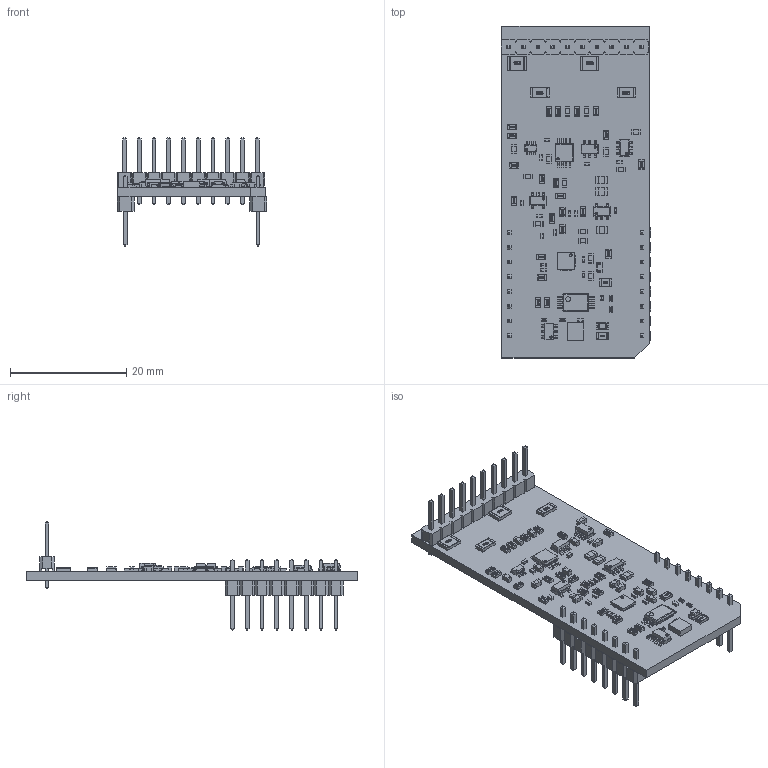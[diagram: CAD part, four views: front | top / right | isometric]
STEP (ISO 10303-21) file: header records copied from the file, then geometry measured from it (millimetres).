
FILE_DESCRIPTION(('Open CASCADE Model'),'2;1');
FILE_NAME('Open CASCADE Shape Model','2026-02-25T09:52:41',('Author'),( 'Open CASCADE'),'Open CASCADE STEP processor 6.8','Open CASCADE 6.8' ,'Unknown');
FILE_SCHEMA(('AUTOMOTIVE_DESIGN { 1 0 10303 214 1 1 1 1 }'));
Length unit declared in the file: millimetre
Products named in the file (113): PCB; Board; U10; User_Library-SOT23-6-2; R32; User_Library-R_0603; C34; User_Library-SMD_CAPACITOR0402; U7; User_Library-TSSOP-8_3_1x3_1; User_Library-TSSOP-8_3.1x3.1_pin_TSSOP_tssop_1; User_Library-TSSOP-8_3.1x3.1_body_TSSOP_TSSOP_3.1x3.1_1; U6; User_Library-SOT23-5-2; R2; User_Library-R_0402; R31; User_Library-R_1210; R30; U9; ACS37612LLUATR-015B5; Leadframe; mold; U8; U5; U4; QFN40P300X300X60-20; U3; User_Library-sot363; R29; R28; R27; R26; R25; R24; R23; R22; R21; R20; R19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
Assembly tree (191 placements, depth 7):
  PCB
    Board
    U10
      User_Library-SOT23-6-2
    R32
      User_Library-R_0603
    C34
      User_Library-SMD_CAPACITOR0402
    U7
      User_Library-TSSOP-8_3_1x3_1
        User_Library-TSSOP-8_3.1x3.1_pin_TSSOP_tssop_1  x8
        User_Library-TSSOP-8_3.1x3.1_body_TSSOP_TSSOP_3.1x3.1_1
    U6
      User_Library-SOT23-5-2
    R2
      User_Library-R_0402
    R31
      User_Library-R_1210
    R30
      User_Library-R_1210
    U9
      ACS37612LLUATR-015B5
        Leadframe
        mold
    U8
      User_Library-SOT23-5-2
    U5
      User_Library-SOT23-6-2
    U4
      QFN40P300X300X60-20
    U3
      User_Library-sot363
    R29
      User_Library-R_0603
    R28
      User_Library-R_0603
    R27
      User_Library-R_0603
    R26
      User_Library-R_0603
    R25
      User_Library-R_0603
    R24
      User_Library-R_0603
    R23
      User_Library-R_0603
    R22
      User_Library-R_0603
    R21
      User_Library-R_0603
    R20
      User_Library-R_0603
    R19
      User_Library-R_0402
    R18
      User_Library-R_0402
    R17
      User_Library-R_0603
    R16
      User_Library-R_0603
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Bounding box: 25.81 x 57.15 x 18.65 mm (x, y, z)
Volume: 3068.4 mm3; surface area: 6036.7 mm2
Topology: 230 solids, 230 shells, 6368 faces, 15767 edges, 9874 vertices
Faces by surface type: plane 3969, bspline 1288, cylinder 807, sphere 302, cone 2
Entity records: 69557 total; most frequent: CARTESIAN_POINT 19672, ORIENTED_EDGE 8530, DIRECTION 7759, EDGE_CURVE 4265, LINE 3485, VECTOR 3485, VERTEX_POINT 2738, AXIS2_PLACEMENT_3D 2137
